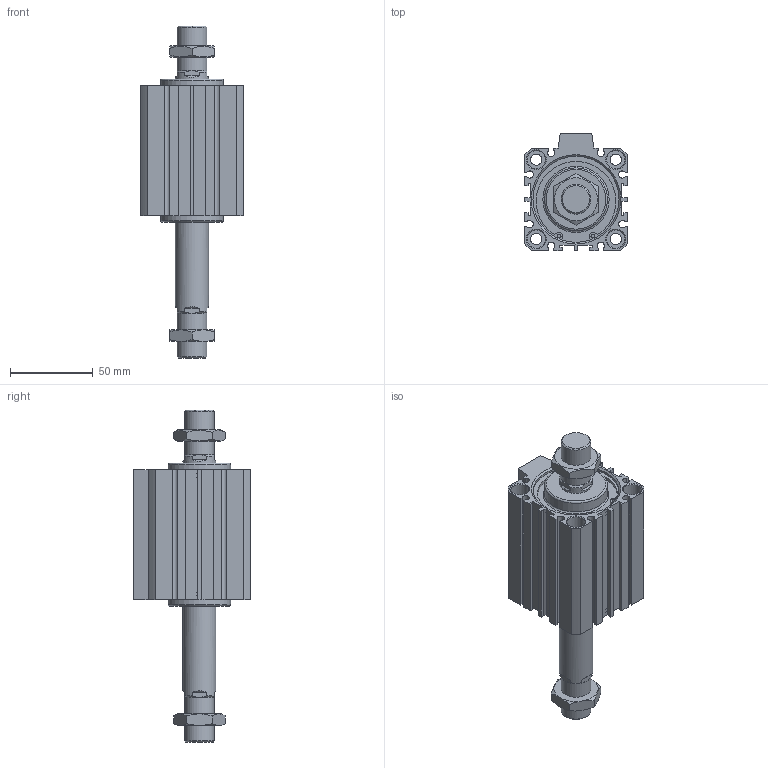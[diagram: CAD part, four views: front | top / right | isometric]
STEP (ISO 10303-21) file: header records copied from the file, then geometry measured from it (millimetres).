
FILE_DESCRIPTION((''),'2;1');
FILE_NAME('I:\3D電子目錄\氣缸\JDD\JDD-B\JDD50-B\JDD50x50-B.stp','2007-02-09T17:09:13',('662F206'),(''),'Autodesk Inventor 10','Autodesk Inventor 10','');
FILE_SCHEMA(('AUTOMOTIVE_DESIGN { 1 0 10303 214 1 1 1 1 }'));
Length unit declared in the file: millimetre
Products named in the file (3): JDD50-B; R 形環 52
Assembly tree (3 placements, depth 2):
  JDD50-B
    JDD50-B
    R 形環 52  x2
Bounding box: 62 x 71 x 200.6 mm (x, y, z)
Volume: 311006.4 mm3; surface area: 62555.1 mm2
Topology: 3 solids, 3 shells, 231 faces, 561 edges, 362 vertices
Faces by surface type: plane 133, cylinder 56, cone 38, bspline 2, torus 2
Full cylindrical faces by diameter (mm): 2.3 x4, 2.7 x2, 6.8 x4, 11 x8, 18 x4, 20 x2, 38 x2, 52 x4, 55 x2
Entity records: 6180 total; most frequent: CARTESIAN_POINT 1222, DIRECTION 1017, ORIENTED_EDGE 942, EDGE_CURVE 471, AXIS2_PLACEMENT_3D 375, VERTEX_POINT 334, EDGE_LOOP 309, VECTOR 267
